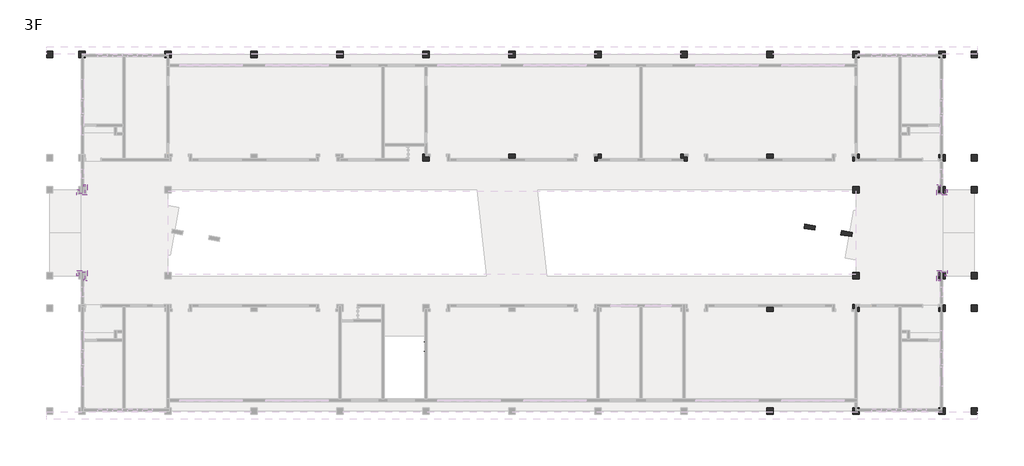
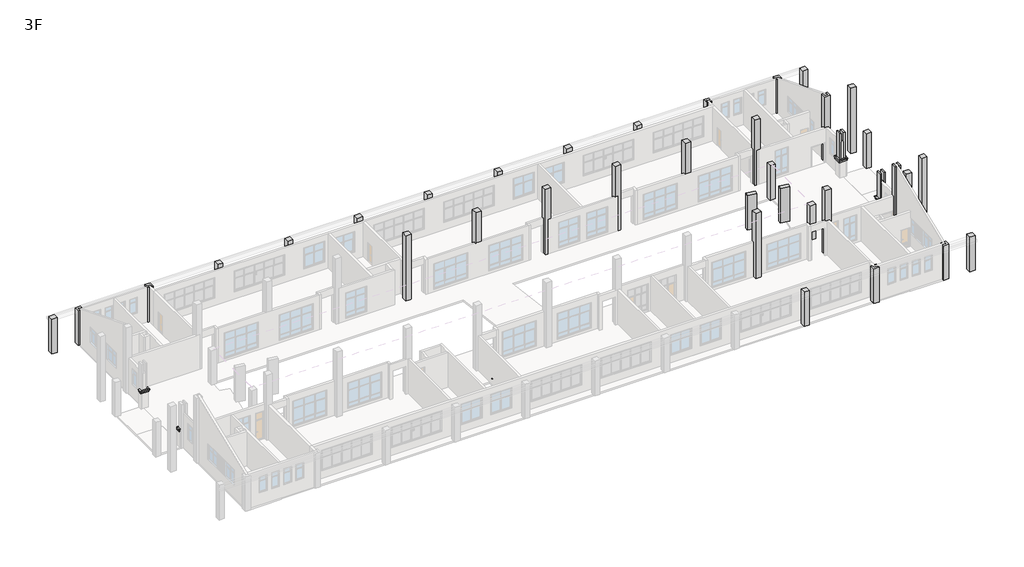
# One storey, part 9 of 9: 37 columns, 6 proxies.
"""IFC4 building model written with IfcOpenShell, lengths in millimetres."""

from ifc_helpers import new_model, si_unit, frame, origin, place, context, project, spatial, polyline, outline, extrude, faceted_brep, transform, mapped, element, save
from components import building_element_proxy_cf76aa7a, column_400_x_1000mm_52ad20a6, column_600_x_600mm_102d08f1, column_600_x_600mm_19dc34fb

model = new_model("IFC4")

# Units and contexts
model_context = context("Model", 3, world=origin())
ifc_project = project(units=[si_unit("LENGTHUNIT", "METRE", prefix="MILLI")], contexts=[model_context])

# Site, building, storey
site = spatial("IfcSite", under=ifc_project)
building = spatial("IfcBuilding", under=site)
storey = spatial("IfcBuildingStorey", under=building, Name="3F", Elevation=8400.0)

# Proxies
placement = place(None, origin())
building_element_proxy_shape = building_element_proxy_cf76aa7a(model_context)
element("IfcBuildingElementProxy", 1, Name="支座 - 金属 - 圆形 : 支座 - 金属 - 圆形", ObjectType="支座 - 金属 - 圆形 : 支座 - 金属 - 圆形", at=placement, inside=storey, context=model_context, shape_type="MappedRepresentation", body=[
    mapped(building_element_proxy_shape, transform((34845.0, 5543.0931494, 8741.3931073), x_axis=(0.0, -1.0, 0.0), y_axis=(1.0, 0.0, 0.0), z_axis=(0.0, 0.0, 1.0))),
])
element("IfcBuildingElementProxy", 2, Name="支座 - 金属 - 圆形 : 支座 - 金属 - 圆形", ObjectType="支座 - 金属 - 圆形 : 支座 - 金属 - 圆形", at=placement, inside=storey, context=model_context, shape_type="MappedRepresentation", body=[
    mapped(building_element_proxy_shape, transform((34845.0, 6437.5203404, 9188.6067028), x_axis=(0.0, -1.0, 0.0), y_axis=(1.0, 0.0, 0.0), z_axis=(0.0, 0.0, 1.0))),
])
element("IfcBuildingElementProxy", 3, Name="QS2", ObjectType="QS2", at=placement, inside=storey, context=model_context, shape_type="Brep", body=[
    faceted_brep([(2550.0, 20633.3045364, 10300.0), (2550.0, 20633.3045364, 10500.0), (2500.0, 20633.3045364, 10500.0), (2500.0, 20633.3045364, 10600.0), (2700.0, 20633.3045364, 10600.0), (2700.0, 20633.3045364, 10550.0), (2600.0, 20633.3045364, 10550.0), (2600.0, 20633.3045364, 10300.0), (2550.0, 20150.0, 10300.0), (2600.0, 20200.0, 10300.0), (2600.0, 20200.0, 10550.0), (2700.0, 20300.0, 10550.0), (2700.0, 20300.0, 10600.0), (2500.0, 20100.0, 10600.0), (2500.0, 20100.0, 10500.0), (2550.0, 20150.0, 10500.0)], [[[0, 1, 2, 3, 4, 5, 6, 7]], [[8, 9, 10, 11, 12, 13, 14, 15]], [[1, 0, 8, 15]], [[2, 1, 15, 14]], [[3, 2, 14, 13]], [[4, 3, 13, 12]], [[5, 4, 12, 11]], [[6, 5, 11, 10]], [[7, 6, 10, 9]], [[0, 7, 9, 8]]]),
    faceted_brep([(2550.0, 20150.0, 10300.0), (2550.0, 20150.0, 10500.0), (2500.0, 20100.0, 10500.0), (2500.0, 20100.0, 10600.0), (2700.0, 20300.0, 10600.0), (2700.0, 20300.0, 10550.0), (2600.0, 20200.0, 10550.0), (2600.0, 20200.0, 10300.0), (3450.0, 20150.0, 10300.0), (3400.0, 20200.0, 10300.0), (3400.0, 20200.0, 10550.0), (3300.0, 20300.0, 10550.0), (3300.0, 20300.0, 10600.0), (3500.0, 20100.0, 10600.0), (3500.0, 20100.0, 10500.0), (3450.0, 20150.0, 10500.0)], [[[0, 1, 2, 3, 4, 5, 6, 7]], [[8, 9, 10, 11, 12, 13, 14, 15]], [[1, 0, 8, 15]], [[2, 1, 15, 14]], [[3, 2, 14, 13]], [[4, 3, 13, 12]], [[5, 4, 12, 11]], [[6, 5, 11, 10]], [[7, 6, 10, 9]], [[0, 7, 9, 8]]]),
    faceted_brep([(3450.0, 20150.0, 10300.0), (3450.0, 20150.0, 10500.0), (3500.0, 20100.0, 10500.0), (3500.0, 20100.0, 10600.0), (3300.0, 20300.0, 10600.0), (3300.0, 20300.0, 10550.0), (3400.0, 20200.0, 10550.0), (3400.0, 20200.0, 10300.0), (3450.0, 21050.0, 10300.0), (3400.0, 21000.0, 10300.0), (3400.0, 21000.0, 10550.0), (3300.0, 20900.0, 10550.0), (3300.0, 20900.0, 10600.0), (3500.0, 21100.0, 10600.0), (3500.0, 21100.0, 10500.0), (3450.0, 21050.0, 10500.0)], [[[0, 1, 2, 3, 4, 5, 6, 7]], [[8, 9, 10, 11, 12, 13, 14, 15]], [[1, 0, 8, 15]], [[2, 1, 15, 14]], [[3, 2, 14, 13]], [[4, 3, 13, 12]], [[5, 4, 12, 11]], [[6, 5, 11, 10]], [[7, 6, 10, 9]], [[0, 7, 9, 8]]]),
    faceted_brep([(3450.0, 21050.0, 10300.0), (3450.0, 21050.0, 10500.0), (3500.0, 21100.0, 10500.0), (3500.0, 21100.0, 10600.0), (3300.0, 20900.0, 10600.0), (3300.0, 20900.0, 10550.0), (3400.0, 21000.0, 10550.0), (3400.0, 21000.0, 10300.0), (3167.0000002, 21050.0, 10300.0), (3167.0000002, 21000.0, 10300.0), (3167.0000002, 21000.0, 10550.0), (3167.0000002, 20900.0, 10550.0), (3167.0000002, 20900.0, 10600.0), (3167.0000002, 21100.0, 10600.0), (3167.0000002, 21100.0, 10500.0), (3167.0000002, 21050.0, 10500.0)], [[[0, 1, 2, 3, 4, 5, 6, 7]], [[8, 9, 10, 11, 12, 13, 14, 15]], [[1, 0, 8, 15]], [[2, 1, 15, 14]], [[3, 2, 14, 13]], [[4, 3, 13, 12]], [[5, 4, 12, 11]], [[6, 5, 11, 10]], [[7, 6, 10, 9]], [[0, 7, 9, 8]]]),
])
element("IfcBuildingElementProxy", 4, Name="QS2", ObjectType="QS2", at=placement, inside=storey, context=model_context, shape_type="Brep", body=[
    faceted_brep([(2550.0, 12566.6954636, 10300.0), (2600.0, 12566.6954636, 10300.0), (2600.0, 12566.6954636, 10550.0), (2700.0, 12566.6954636, 10550.0), (2700.0, 12566.6954636, 10600.0), (2500.0, 12566.6954636, 10600.0), (2500.0, 12566.6954636, 10500.0), (2550.0, 12566.6954636, 10500.0), (2550.0, 13050.0, 10300.0), (2550.0, 13050.0, 10500.0), (2500.0, 13100.0, 10500.0), (2500.0, 13100.0, 10600.0), (2700.0, 12900.0, 10600.0), (2700.0, 12900.0, 10550.0), (2600.0, 13000.0, 10550.0), (2600.0, 13000.0, 10300.0)], [[[0, 1, 2, 3, 4, 5, 6, 7]], [[8, 9, 10, 11, 12, 13, 14, 15]], [[0, 7, 9, 8]], [[7, 6, 10, 9]], [[6, 5, 11, 10]], [[5, 4, 12, 11]], [[4, 3, 13, 12]], [[3, 2, 14, 13]], [[2, 1, 15, 14]], [[1, 0, 8, 15]]]),
    faceted_brep([(2550.0, 13050.0, 10300.0), (2600.0, 13000.0, 10300.0), (2600.0, 13000.0, 10550.0), (2700.0, 12900.0, 10550.0), (2700.0, 12900.0, 10600.0), (2500.0, 13100.0, 10600.0), (2500.0, 13100.0, 10500.0), (2550.0, 13050.0, 10500.0), (3450.0, 13050.0, 10300.0), (3450.0, 13050.0, 10500.0), (3500.0, 13100.0, 10500.0), (3500.0, 13100.0, 10600.0), (3300.0, 12900.0, 10600.0), (3300.0, 12900.0, 10550.0), (3400.0, 13000.0, 10550.0), (3400.0, 13000.0, 10300.0)], [[[0, 1, 2, 3, 4, 5, 6, 7]], [[8, 9, 10, 11, 12, 13, 14, 15]], [[0, 7, 9, 8]], [[7, 6, 10, 9]], [[6, 5, 11, 10]], [[5, 4, 12, 11]], [[4, 3, 13, 12]], [[3, 2, 14, 13]], [[2, 1, 15, 14]], [[1, 0, 8, 15]]]),
    faceted_brep([(3450.0, 13050.0, 10300.0), (3400.0, 13000.0, 10300.0), (3400.0, 13000.0, 10550.0), (3300.0, 12900.0, 10550.0), (3300.0, 12900.0, 10600.0), (3500.0, 13100.0, 10600.0), (3500.0, 13100.0, 10500.0), (3450.0, 13050.0, 10500.0), (3450.0, 12150.0, 10300.0), (3450.0, 12150.0, 10500.0), (3500.0, 12100.0, 10500.0), (3500.0, 12100.0, 10600.0), (3300.0, 12300.0, 10600.0), (3300.0, 12300.0, 10550.0), (3400.0, 12200.0, 10550.0), (3400.0, 12200.0, 10300.0)], [[[0, 1, 2, 3, 4, 5, 6, 7]], [[8, 9, 10, 11, 12, 13, 14, 15]], [[0, 7, 9, 8]], [[7, 6, 10, 9]], [[6, 5, 11, 10]], [[5, 4, 12, 11]], [[4, 3, 13, 12]], [[3, 2, 14, 13]], [[2, 1, 15, 14]], [[1, 0, 8, 15]]]),
    faceted_brep([(3450.0, 12150.0, 10300.0), (3400.0, 12200.0, 10300.0), (3400.0, 12200.0, 10550.0), (3300.0, 12300.0, 10550.0), (3300.0, 12300.0, 10600.0), (3500.0, 12100.0, 10600.0), (3500.0, 12100.0, 10500.0), (3450.0, 12150.0, 10500.0), (3167.0000002, 12150.0, 10300.0), (3167.0000002, 12150.0, 10500.0), (3167.0000002, 12100.0, 10500.0), (3167.0000002, 12100.0, 10600.0), (3167.0000002, 12300.0, 10600.0), (3167.0000002, 12300.0, 10550.0), (3167.0000002, 12200.0, 10550.0), (3167.0000002, 12200.0, 10300.0)], [[[0, 1, 2, 3, 4, 5, 6, 7]], [[8, 9, 10, 11, 12, 13, 14, 15]], [[0, 7, 9, 8]], [[7, 6, 10, 9]], [[6, 5, 11, 10]], [[5, 4, 12, 11]], [[4, 3, 13, 12]], [[3, 2, 14, 13]], [[2, 1, 15, 14]], [[1, 0, 8, 15]]]),
])
element("IfcBuildingElementProxy", 5, Name="QS2", ObjectType="QS2", at=placement, inside=storey, context=model_context, shape_type="Brep", body=[
    faceted_brep([(83450.0, 20633.3045364, 10300.0), (83400.0, 20633.3045364, 10300.0), (83400.0, 20633.3045364, 10550.0), (83300.0, 20633.3045364, 10550.0), (83300.0, 20633.3045364, 10600.0), (83500.0, 20633.3045364, 10600.0), (83500.0, 20633.3045364, 10500.0), (83450.0, 20633.3045364, 10500.0), (83450.0, 20150.0, 10300.0), (83450.0, 20150.0, 10500.0), (83500.0, 20100.0, 10500.0), (83500.0, 20100.0, 10600.0), (83300.0, 20300.0, 10600.0), (83300.0, 20300.0, 10550.0), (83400.0, 20200.0, 10550.0), (83400.0, 20200.0, 10300.0)], [[[0, 1, 2, 3, 4, 5, 6, 7]], [[8, 9, 10, 11, 12, 13, 14, 15]], [[0, 7, 9, 8]], [[7, 6, 10, 9]], [[6, 5, 11, 10]], [[5, 4, 12, 11]], [[4, 3, 13, 12]], [[3, 2, 14, 13]], [[2, 1, 15, 14]], [[1, 0, 8, 15]]]),
    faceted_brep([(83450.0, 20150.0, 10300.0), (83400.0, 20200.0, 10300.0), (83400.0, 20200.0, 10550.0), (83300.0, 20300.0, 10550.0), (83300.0, 20300.0, 10600.0), (83500.0, 20100.0, 10600.0), (83500.0, 20100.0, 10500.0), (83450.0, 20150.0, 10500.0), (82550.0, 20150.0, 10300.0), (82550.0, 20150.0, 10500.0), (82500.0, 20100.0, 10500.0), (82500.0, 20100.0, 10600.0), (82700.0, 20300.0, 10600.0), (82700.0, 20300.0, 10550.0), (82600.0, 20200.0, 10550.0), (82600.0, 20200.0, 10300.0)], [[[0, 1, 2, 3, 4, 5, 6, 7]], [[8, 9, 10, 11, 12, 13, 14, 15]], [[0, 7, 9, 8]], [[7, 6, 10, 9]], [[6, 5, 11, 10]], [[5, 4, 12, 11]], [[4, 3, 13, 12]], [[3, 2, 14, 13]], [[2, 1, 15, 14]], [[1, 0, 8, 15]]]),
    faceted_brep([(82550.0, 20150.0, 10300.0), (82600.0, 20200.0, 10300.0), (82600.0, 20200.0, 10550.0), (82700.0, 20300.0, 10550.0), (82700.0, 20300.0, 10600.0), (82500.0, 20100.0, 10600.0), (82500.0, 20100.0, 10500.0), (82550.0, 20150.0, 10500.0), (82550.0, 21050.0, 10300.0), (82550.0, 21050.0, 10500.0), (82500.0, 21100.0, 10500.0), (82500.0, 21100.0, 10600.0), (82700.0, 20900.0, 10600.0), (82700.0, 20900.0, 10550.0), (82600.0, 21000.0, 10550.0), (82600.0, 21000.0, 10300.0)], [[[0, 1, 2, 3, 4, 5, 6, 7]], [[8, 9, 10, 11, 12, 13, 14, 15]], [[0, 7, 9, 8]], [[7, 6, 10, 9]], [[6, 5, 11, 10]], [[5, 4, 12, 11]], [[4, 3, 13, 12]], [[3, 2, 14, 13]], [[2, 1, 15, 14]], [[1, 0, 8, 15]]]),
    faceted_brep([(82550.0, 21050.0, 10300.0), (82600.0, 21000.0, 10300.0), (82600.0, 21000.0, 10550.0), (82700.0, 20900.0, 10550.0), (82700.0, 20900.0, 10600.0), (82500.0, 21100.0, 10600.0), (82500.0, 21100.0, 10500.0), (82550.0, 21050.0, 10500.0), (82832.9999995, 21050.0, 10300.0), (82832.9999995, 21050.0, 10500.0), (82832.9999995, 21100.0, 10500.0), (82832.9999995, 21100.0, 10600.0), (82832.9999995, 20900.0, 10600.0), (82832.9999995, 20900.0, 10550.0), (82832.9999995, 21000.0, 10550.0), (82832.9999995, 21000.0, 10300.0)], [[[0, 1, 2, 3, 4, 5, 6, 7]], [[8, 9, 10, 11, 12, 13, 14, 15]], [[0, 7, 9, 8]], [[7, 6, 10, 9]], [[6, 5, 11, 10]], [[5, 4, 12, 11]], [[4, 3, 13, 12]], [[3, 2, 14, 13]], [[2, 1, 15, 14]], [[1, 0, 8, 15]]]),
])
element("IfcBuildingElementProxy", 6, Name="QS2", ObjectType="QS2", at=placement, inside=storey, context=model_context, shape_type="Brep", body=[
    faceted_brep([(83450.0, 12566.6954636, 10300.0), (83450.0, 12566.6954636, 10500.0), (83500.0, 12566.6954636, 10500.0), (83500.0, 12566.6954636, 10600.0), (83300.0, 12566.6954636, 10600.0), (83300.0, 12566.6954636, 10550.0), (83400.0, 12566.6954636, 10550.0), (83400.0, 12566.6954636, 10300.0), (83450.0, 13050.0, 10300.0), (83400.0, 13000.0, 10300.0), (83400.0, 13000.0, 10550.0), (83300.0, 12900.0, 10550.0), (83300.0, 12900.0, 10600.0), (83500.0, 13100.0, 10600.0), (83500.0, 13100.0, 10500.0), (83450.0, 13050.0, 10500.0)], [[[0, 1, 2, 3, 4, 5, 6, 7]], [[8, 9, 10, 11, 12, 13, 14, 15]], [[1, 0, 8, 15]], [[2, 1, 15, 14]], [[3, 2, 14, 13]], [[4, 3, 13, 12]], [[5, 4, 12, 11]], [[6, 5, 11, 10]], [[7, 6, 10, 9]], [[0, 7, 9, 8]]]),
    faceted_brep([(83450.0, 13050.0, 10300.0), (83450.0, 13050.0, 10500.0), (83500.0, 13100.0, 10500.0), (83500.0, 13100.0, 10600.0), (83300.0, 12900.0, 10600.0), (83300.0, 12900.0, 10550.0), (83400.0, 13000.0, 10550.0), (83400.0, 13000.0, 10300.0), (82550.0, 13050.0, 10300.0), (82600.0, 13000.0, 10300.0), (82600.0, 13000.0, 10550.0), (82700.0, 12900.0, 10550.0), (82700.0, 12900.0, 10600.0), (82500.0, 13100.0, 10600.0), (82500.0, 13100.0, 10500.0), (82550.0, 13050.0, 10500.0)], [[[0, 1, 2, 3, 4, 5, 6, 7]], [[8, 9, 10, 11, 12, 13, 14, 15]], [[1, 0, 8, 15]], [[2, 1, 15, 14]], [[3, 2, 14, 13]], [[4, 3, 13, 12]], [[5, 4, 12, 11]], [[6, 5, 11, 10]], [[7, 6, 10, 9]], [[0, 7, 9, 8]]]),
    faceted_brep([(82550.0, 13050.0, 10300.0), (82550.0, 13050.0, 10500.0), (82500.0, 13100.0, 10500.0), (82500.0, 13100.0, 10600.0), (82700.0, 12900.0, 10600.0), (82700.0, 12900.0, 10550.0), (82600.0, 13000.0, 10550.0), (82600.0, 13000.0, 10300.0), (82550.0, 12150.0, 10300.0), (82600.0, 12200.0, 10300.0), (82600.0, 12200.0, 10550.0), (82700.0, 12300.0, 10550.0), (82700.0, 12300.0, 10600.0), (82500.0, 12100.0, 10600.0), (82500.0, 12100.0, 10500.0), (82550.0, 12150.0, 10500.0)], [[[0, 1, 2, 3, 4, 5, 6, 7]], [[8, 9, 10, 11, 12, 13, 14, 15]], [[1, 0, 8, 15]], [[2, 1, 15, 14]], [[3, 2, 14, 13]], [[4, 3, 13, 12]], [[5, 4, 12, 11]], [[6, 5, 11, 10]], [[7, 6, 10, 9]], [[0, 7, 9, 8]]]),
    faceted_brep([(82550.0, 12150.0, 10300.0), (82550.0, 12150.0, 10500.0), (82500.0, 12100.0, 10500.0), (82500.0, 12100.0, 10600.0), (82700.0, 12300.0, 10600.0), (82700.0, 12300.0, 10550.0), (82600.0, 12200.0, 10550.0), (82600.0, 12200.0, 10300.0), (82832.9999995, 12150.0, 10300.0), (82832.9999995, 12200.0, 10300.0), (82832.9999995, 12200.0, 10550.0), (82832.9999995, 12300.0, 10550.0), (82832.9999995, 12300.0, 10600.0), (82832.9999995, 12100.0, 10600.0), (82832.9999995, 12100.0, 10500.0), (82832.9999995, 12150.0, 10500.0)], [[[0, 1, 2, 3, 4, 5, 6, 7]], [[8, 9, 10, 11, 12, 13, 14, 15]], [[1, 0, 8, 15]], [[2, 1, 15, 14]], [[3, 2, 14, 13]], [[4, 3, 13, 12]], [[5, 4, 12, 11]], [[6, 5, 11, 10]], [[7, 6, 10, 9]], [[0, 7, 9, 8]]]),
])

# Columns
column_400_x_1000mm_shape = column_400_x_1000mm_52ad20a6(model_context)
element("IfcColumn", 7, ObjectType="矩形柱 : 400 x 1000mm", at=placement, inside=storey, context=model_context, shape_type="MappedRepresentation", body=[
    mapped(column_400_x_1000mm_shape, transform((70696.3343657, 17127.6942221, 0.0), x_axis=(0.9848077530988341, -0.1736481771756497, 0.0), y_axis=(0.1736481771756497, 0.9848077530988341, 0.0), z_axis=(0.0, 0.0, 1.0))),
])
element("IfcColumn", 8, ObjectType="矩形柱 : 400 x 1000mm", at=placement, inside=storey, context=model_context, shape_type="MappedRepresentation", body=[
    mapped(column_400_x_1000mm_shape, transform((74131.0357292, 16521.1261705, 0.0), x_axis=(0.9848077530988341, -0.1736481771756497, 0.0), y_axis=(0.1736481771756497, 0.9848077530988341, 0.0), z_axis=(0.0, 0.0, 1.0))),
])
element("IfcColumn", 9, ObjectType="矩形柱 : 600 x 600mm", at=placement, inside=storey, context=model_context, shape_type="Brep", body=[
    faceted_brep([(11300.0, 33500.0, 12600.0), (10700.0, 33500.0, 12600.0), (10700.0, 33199.8929826, 12600.0), (11133.0, 33199.8929826, 12600.0), (11133.0, 32982.6954639, 12600.0), (11133.0, 32900.0, 12600.0), (11300.0, 32900.0, 12600.0), (11300.0, 33500.0, 8400.0), (10700.0, 33500.0, 8400.0), (10700.0, 33232.6954639, 8400.0), (10700.0, 33232.6954639, 12586.8799436), (11300.0, 32900.0, 8400.0), (11133.0, 33232.6954639, 8400.0), (11133.0, 33232.6954639, 12586.8799436), (11133.0, 32982.6954639, 8400.0), (11133.0, 32900.0, 8400.0)], [[[0, 1, 2, 3, 4, 5, 6]], [[1, 0, 7, 8]], [[1, 8, 9, 10, 2]], [[0, 6, 11, 7]], [[12, 13, 10, 9]], [[13, 12, 14, 4, 3]], [[5, 4, 14, 15]], [[7, 11, 15, 14, 12, 9, 8]], [[11, 6, 5, 15]], [[10, 13, 3, 2]]]),
    faceted_brep([(10700.0, 32900.0, 8400.0), (10700.0, 32982.6954639, 8400.0), (10883.0, 32982.6954639, 8400.0), (10883.0, 32900.0, 8400.0), (10700.0, 32900.0, 12600.0), (10883.0, 32900.0, 12600.0), (10700.0, 32982.6954639, 12600.0), (10883.0, 32982.6954639, 12600.0)], [[[0, 1, 2, 3]], [[4, 0, 3, 5]], [[1, 6, 7, 2]], [[0, 4, 6, 1]], [[7, 5, 3, 2]], [[6, 4, 5, 7]]]),
])
element("IfcColumn", 10, ObjectType="矩形柱 : 600 x 600mm", at=placement, inside=storey, context=model_context, shape_type="SweptSolid", body=[
    extrude(outline(polyline([(300.0, 33500.0), (300.0, 32900.0), (-300.0, 32900.0), (-300.0, 33500.0), (300.0, 33500.0)])), frame((0.0, 0.0, 8400.0), z_axis=(0.0, 0.0, 1.0), x_axis=(1.0, 0.0, 0.0)), (0.0, 0.0, 1.0), 4200.0),
])
element("IfcColumn", 11, ObjectType="矩形柱 : 600 x 600mm", at=placement, inside=storey, context=model_context, shape_type="Brep", body=[
    faceted_brep([(3300.0, 33500.0, 12600.0), (2700.0, 33500.0, 12600.0), (2700.0, 32900.0, 12600.0), (2917.0000002, 32900.0, 12600.0), (2917.0000002, 33199.8929826, 12600.0), (3167.0000002, 33199.8929826, 12600.0), (3300.0, 33199.8929826, 12600.0), (2700.0, 32900.0, 8400.0), (2700.0, 33500.0, 8400.0), (3300.0, 33500.0, 8400.0), (3300.0, 33232.6954639, 8400.0), (3167.0000002, 33232.6954639, 8400.0), (2917.0000002, 33232.6954639, 8400.0), (2917.0000002, 32900.0, 8400.0), (3300.0, 33232.6954639, 12586.8799436), (3167.0000002, 33232.6954639, 12586.8799436), (2917.0000002, 33232.6954639, 12586.8799436)], [[[0, 1, 2, 3, 4, 5, 6]], [[7, 8, 9, 10, 11, 12, 13]], [[1, 0, 9, 8]], [[2, 1, 8, 7]], [[2, 7, 13, 3]], [[9, 0, 6, 14, 10]], [[11, 10, 14, 15]], [[12, 16, 4, 3, 13]], [[16, 12, 11, 15]], [[16, 15, 5, 4]], [[15, 14, 6, 5]]]),
    faceted_brep([(3167.0000002, 32982.6954639, 12600.0), (3300.0, 32982.6954639, 12600.0), (3300.0, 32982.6954639, 8400.0), (3167.0000002, 32982.6954639, 8400.0), (3300.0, 32900.0, 12600.0), (3300.0, 32900.0, 8400.0), (3167.0000002, 32900.0, 12600.0), (3167.0000002, 32900.0, 8400.0)], [[[0, 1, 2, 3]], [[4, 5, 2, 1]], [[6, 0, 3, 7]], [[4, 1, 0, 6]], [[2, 5, 7, 3]], [[5, 4, 6, 7]]]),
])
element("IfcColumn", 12, ObjectType="矩形柱 : 600 x 600mm", at=placement, inside=storey, context=model_context, shape_type="SweptSolid", body=[
    extrude(outline(polyline([(19300.0, 33500.0), (19300.0, 32900.0), (18700.0, 32900.0), (18700.0, 33500.0), (19300.0, 33500.0)])), frame((0.0, 0.0, 8400.0), z_axis=(0.0, 0.0, 1.0), x_axis=(1.0, 0.0, 0.0)), (0.0, 0.0, 1.0), 4200.0),
])
element("IfcColumn", 13, ObjectType="矩形柱 : 600 x 600mm", at=placement, inside=storey, context=model_context, shape_type="SweptSolid", body=[
    extrude(outline(polyline([(86300.0, 33500.0), (86300.0, 32900.0), (85700.0, 32900.0), (85700.0, 33500.0), (86300.0, 33500.0)])), frame((0.0, 0.0, 8400.0), z_axis=(0.0, 0.0, 1.0), x_axis=(1.0, 0.0, 0.0)), (0.0, 0.0, 1.0), 4200.0),
])
element("IfcColumn", 14, ObjectType="矩形柱 : 600 x 600mm", at=placement, inside=storey, context=model_context, shape_type="SweptSolid", body=[
    extrude(outline(polyline([(86300.0, 23900.0), (86300.0, 23300.0), (85700.0, 23300.0), (85700.0, 23900.0), (86300.0, 23900.0)])), frame((0.0, 0.0, 8400.0), z_axis=(0.0, 0.0, 1.0), x_axis=(1.0, 0.0, 0.0)), (0.0, 0.0, 1.0), 7919.691812),
])
element("IfcColumn", 15, ObjectType="矩形柱 : 600 x 600mm", at=placement, inside=storey, context=model_context, shape_type="SweptSolid", body=[
    extrude(outline(polyline([(86300.0, 20900.0), (86300.0, 20300.0), (85700.0, 20300.0), (85700.0, 20900.0), (86300.0, 20900.0)])), frame((0.0, 0.0, 8400.0), z_axis=(0.0, 0.0, 1.0), x_axis=(1.0, 0.0, 0.0)), (0.0, 0.0, 1.0), 4200.0),
])
element("IfcColumn", 16, ObjectType="矩形柱 : 600 x 600mm", at=placement, inside=storey, context=model_context, shape_type="SweptSolid", body=[
    extrude(outline(polyline([(67300.0, -300.0), (66700.0, -300.0), (66700.0, 300.0), (67300.0, 300.0), (67300.0, -300.0)])), frame((0.0, 0.0, 8400.0), z_axis=(0.0, 0.0, 1.0), x_axis=(1.0, 0.0, 0.0)), (0.0, 0.0, 1.0), 4200.0),
])
element("IfcColumn", 17, ObjectType="矩形柱 : 600 x 600mm", at=placement, inside=storey, context=model_context, shape_type="SweptSolid", body=[
    extrude(outline(polyline([(75117.0, 300.0), (75300.0, 300.0), (75300.0, 217.3045358), (75117.0, 217.3045358), (75117.0, 300.0)])), frame((0.0, 0.0, 8400.0), z_axis=(0.0, 0.0, 1.0), x_axis=(1.0, 0.0, 0.0)), (0.0, 0.0, 1.0), 4200.0),
    extrude(outline(polyline([(74700.0, -300.0), (74700.0, 300.0), (74867.0, 300.0), (74867.0, -32.6954642), (75117.0, -32.6954642), (75300.0, -32.6954642), (75300.0, -300.0), (74700.0, -300.0)])), frame((0.0, 0.0, 8400.0), z_axis=(0.0, 0.0, 1.0), x_axis=(1.0, 0.0, 0.0)), (0.0, 0.0, 1.0), 4200.0),
])
element("IfcColumn", 18, ObjectType="矩形柱 : 600 x 600mm", at=placement, inside=storey, context=model_context, shape_type="SweptSolid", body=[
    extrude(outline(polyline([(86300.0, 9300.0), (85700.0, 9300.0), (85700.0, 9900.0), (86300.0, 9900.0), (86300.0, 9300.0)])), frame((0.0, 0.0, 8400.0), z_axis=(0.0, 0.0, 1.0), x_axis=(1.0, 0.0, 0.0)), (0.0, 0.0, 1.0), 7919.691812),
])
element("IfcColumn", 19, ObjectType="矩形柱 : 600 x 600mm", at=placement, inside=storey, context=model_context, shape_type="SweptSolid", body=[
    extrude(outline(polyline([(86300.0, 12300.0), (85700.0, 12300.0), (85700.0, 12900.0), (86300.0, 12900.0), (86300.0, 12300.0)])), frame((0.0, 0.0, 8400.0), z_axis=(0.0, 0.0, 1.0), x_axis=(1.0, 0.0, 0.0)), (0.0, 0.0, 1.0), 4200.0),
])
element("IfcColumn", 20, ObjectType="矩形柱 : 600 x 600mm", at=placement, inside=storey, context=model_context, shape_type="SweptSolid", body=[
    extrude(outline(polyline([(83300.0, 33500.0), (83300.0, 32900.0), (83082.9999995, 32900.0), (83082.9999995, 32982.6954642), (83082.9999995, 33232.6954642), (82700.0, 33232.6954642), (82700.0, 33500.0), (83300.0, 33500.0)])), frame((0.0, 0.0, 8400.0), z_axis=(0.0, 0.0, 1.0), x_axis=(1.0, 0.0, 0.0)), (0.0, 0.0, 1.0), 4200.0),
    extrude(outline(polyline([(82700.0, 32900.0), (82700.0, 32982.6954642), (82832.9999995, 32982.6954642), (82832.9999995, 32900.0), (82700.0, 32900.0)])), frame((0.0, 0.0, 8400.0), z_axis=(0.0, 0.0, 1.0), x_axis=(1.0, 0.0, 0.0)), (0.0, 0.0, 1.0), 4200.0),
])
element("IfcColumn", 21, ObjectType="矩形柱 : 600 x 600mm", at=placement, inside=storey, context=model_context, shape_type="Brep", body=[
    faceted_brep([(82700.0, 23900.0, 16319.691812), (82700.0, 23300.0, 16319.691812), (83300.0, 23300.0, 16319.691812), (83300.0, 23900.0, 16319.691812), (83082.9999995, 23900.0, 16319.691812), (83082.9999995, 23516.2230996, 16319.691812), (82832.9999995, 23516.2230996, 16319.691812), (82832.9999995, 23900.0, 16319.691812), (82700.0, 23900.0, 8400.0), (82832.9999995, 23900.0, 8400.0), (82832.9999995, 23516.2230996, 8400.0), (82700.0, 23516.2230996, 8400.0), (83300.0, 23900.0, 8400.0), (83082.9999995, 23900.0, 8400.0), (82700.0, 23516.2230996, 10800.0), (82700.0, 23516.2230996, 12600.0), (82700.0, 23300.0, 12600.0), (83000.0, 23300.0, 12600.0), (83082.9999995, 23300.0, 12600.0), (83082.9999995, 23300.0, 8400.0), (83300.0, 23300.0, 8400.0), (82832.9999995, 23516.2230996, 12600.0), (83082.9999995, 23516.2230996, 8400.0), (83082.9999995, 23516.2230996, 12600.0)], [[[0, 1, 2, 3, 4, 5, 6, 7]], [[8, 9, 10, 11]], [[3, 12, 13, 4]], [[1, 0, 8, 11, 14, 15, 16]], [[2, 1, 16, 17, 18, 19, 20]], [[3, 2, 20, 12]], [[10, 9, 7, 6, 21]], [[13, 22, 23, 5, 4]], [[21, 15, 14, 11, 10]], [[15, 21, 23, 18, 17, 16]], [[18, 23, 22, 19]], [[8, 0, 7, 9]], [[6, 5, 23, 21]], [[12, 20, 19, 22, 13]]]),
])
element("IfcColumn", 22, ObjectType="矩形柱 : 600 x 600mm", at=placement, inside=storey, context=model_context, shape_type="SweptSolid", body=[
    extrude(outline(polyline([(8400.0, 83300.0), (13679.8801491, 83300.0), (13679.8801491, 83082.9999995), (12600.0, 83082.9999995), (8400.0, 83082.9999995), (8400.0, 83300.0)])), frame((0.0, 20300.0, 0.0), z_axis=(0.0, 1.0, 0.0), x_axis=(0.0, 0.0, 1.0)), (0.0, 0.0, 1.0), 600.0),
    extrude(outline(polyline([(13679.8801491, 82700.0), (8400.0, 82700.0), (8400.0, 82832.9999995), (12600.0, 82832.9999995), (13679.8801491, 82832.9999995), (13679.8801491, 82700.0)])), frame((0.0, 20300.0, 0.0), z_axis=(0.0, 1.0, 0.0), x_axis=(0.0, 0.0, 1.0)), (0.0, 0.0, 1.0), 600.0),
])
element("IfcColumn", 23, ObjectType="矩形柱 : 600 x 600mm", at=placement, inside=storey, context=model_context, shape_type="SweptSolid", body=[
    extrude(outline(polyline([(8400.0, 83300.0), (13679.8801491, 83300.0), (13679.8801491, 83082.9999995), (12600.0, 83082.9999995), (8400.0, 83082.9999995), (8400.0, 83300.0)])), frame((0.0, 12300.0, 0.0), z_axis=(0.0, 1.0, 0.0), x_axis=(0.0, 0.0, 1.0)), (0.0, 0.0, 1.0), 600.0),
    extrude(outline(polyline([(13679.8801491, 82700.0), (8400.0, 82700.0), (8400.0, 82832.9999995), (12600.0, 82832.9999995), (13679.8801491, 82832.9999995), (13679.8801491, 82700.0)])), frame((0.0, 12300.0, 0.0), z_axis=(0.0, 1.0, 0.0), x_axis=(0.0, 0.0, 1.0)), (0.0, 0.0, 1.0), 600.0),
])
element("IfcColumn", 24, ObjectType="矩形柱 : 600 x 600mm", at=placement, inside=storey, context=model_context, shape_type="Brep", body=[
    faceted_brep([(83300.0, 9300.0, 16319.691812), (83300.0, 9900.0, 16319.691812), (83082.9999995, 9900.0, 16319.691812), (83082.9999995, 9300.0, 16319.691812), (83300.0, 9900.0, 8400.0), (83082.9999995, 9900.0, 8400.0), (83300.0, 9300.0, 8400.0), (83082.9999995, 9300.0, 8400.0)], [[[0, 1, 2, 3]], [[1, 4, 5, 2]], [[1, 0, 6, 4]], [[5, 7, 3, 2]], [[4, 6, 7, 5]], [[6, 0, 3, 7]]]),
    faceted_brep([(82832.9999995, 9300.0, 8400.0), (82700.0, 9300.0, 8400.0), (82700.0, 9683.7769004, 8400.0), (82832.9999995, 9683.7769004, 8400.0), (82700.0, 9300.0, 16319.691812), (82700.0, 9900.0, 16319.691812), (82700.0, 9900.0, 12600.0), (82700.0, 9683.7769004, 12600.0), (82700.0, 9683.7769004, 10800.0), (82832.9999995, 9300.0, 16319.691812), (82832.9999995, 9683.7769004, 12600.0), (82832.9999995, 9900.0, 12600.0), (82832.9999995, 9900.0, 16319.691812)], [[[0, 1, 2, 3]], [[4, 5, 6, 7, 8, 2, 1]], [[4, 1, 0, 9]], [[9, 0, 3, 10, 11, 12]], [[7, 10, 3, 2, 8]], [[10, 7, 6, 11]], [[5, 4, 9, 12]], [[5, 12, 11, 6]]]),
])
element("IfcColumn", 25, ObjectType="矩形柱 : 600 x 600mm", at=placement, inside=storey, context=model_context, shape_type="SweptSolid", body=[
    extrude(outline(polyline([(74700.0, 32900.0), (74700.0, 33500.0), (75300.0, 33500.0), (75300.0, 33232.6954642), (75117.0, 33232.6954642), (74867.0, 33232.6954642), (74867.0, 32900.0), (74700.0, 32900.0)])), frame((0.0, 0.0, 8400.0), z_axis=(0.0, 0.0, 1.0), x_axis=(1.0, 0.0, 0.0)), (0.0, 0.0, 1.0), 4200.0),
    extrude(outline(polyline([(75300.0, 32900.0), (75117.0, 32900.0), (75117.0, 32982.6954642), (75300.0, 32982.6954642), (75300.0, 32900.0)])), frame((0.0, 0.0, 8400.0), z_axis=(0.0, 0.0, 1.0), x_axis=(1.0, 0.0, 0.0)), (0.0, 0.0, 1.0), 4200.0),
])
element("IfcColumn", 26, ObjectType="矩形柱 : 600 x 600mm", at=placement, inside=storey, context=model_context, shape_type="SweptSolid", body=[
    extrude(outline(polyline([(82700.0, 217.3045358), (82700.0, 300.0), (82832.9999995, 300.0), (82832.9999995, 217.3045358), (82700.0, 217.3045358)])), frame((0.0, 0.0, 8400.0), z_axis=(0.0, 0.0, 1.0), x_axis=(1.0, 0.0, 0.0)), (0.0, 0.0, 1.0), 4200.0),
    extrude(outline(polyline([(83300.0, 300.0), (83300.0, -300.0), (82700.0, -300.0), (82700.0, -32.6954642), (83082.9999995, -32.6954642), (83082.9999995, 217.3045358), (83082.9999995, 300.0), (83300.0, 300.0)])), frame((0.0, 0.0, 8400.0), z_axis=(0.0, 0.0, 1.0), x_axis=(1.0, 0.0, 0.0)), (0.0, 0.0, 1.0), 4200.0),
])
element("IfcColumn", 27, ObjectType="矩形柱 : 600 x 600mm", at=placement, inside=storey, context=model_context, shape_type="SweptSolid", body=[
    extrude(outline(polyline([(86300.0, 300.0), (86300.0, -300.0), (85700.0, -300.0), (85700.0, 300.0), (86300.0, 300.0)])), frame((0.0, 0.0, 8400.0), z_axis=(0.0, 0.0, 1.0), x_axis=(1.0, 0.0, 0.0)), (0.0, 0.0, 1.0), 4200.0),
])
element("IfcColumn", 28, ObjectType="矩形柱 : 600 x 600mm", at=placement, inside=storey, context=model_context, shape_type="SweptSolid", body=[
    extrude(outline(polyline([(27300.0, 33500.0), (27300.0, 32900.0), (26700.0, 32900.0), (26700.0, 33500.0), (27300.0, 33500.0)])), frame((0.0, 0.0, 8400.0), z_axis=(0.0, 0.0, 1.0), x_axis=(1.0, 0.0, 0.0)), (0.0, 0.0, 1.0), 4200.0),
])
element("IfcColumn", 29, ObjectType="矩形柱 : 600 x 600mm", at=placement, inside=storey, context=model_context, shape_type="SweptSolid", body=[
    extrude(outline(polyline([(35300.0, 33500.0), (35300.0, 32900.0), (34700.0, 32900.0), (34700.0, 33500.0), (35300.0, 33500.0)])), frame((0.0, 0.0, 8400.0), z_axis=(0.0, 0.0, 1.0), x_axis=(1.0, 0.0, 0.0)), (0.0, 0.0, 1.0), 4200.0),
])
element("IfcColumn", 30, ObjectType="矩形柱 : 600 x 600mm", at=placement, inside=storey, context=model_context, shape_type="SweptSolid", body=[
    extrude(outline(polyline([(43300.0, 33500.0), (43300.0, 32900.0), (42700.0, 32900.0), (42700.0, 33500.0), (43300.0, 33500.0)])), frame((0.0, 0.0, 8400.0), z_axis=(0.0, 0.0, 1.0), x_axis=(1.0, 0.0, 0.0)), (0.0, 0.0, 1.0), 4200.0),
])
element("IfcColumn", 31, ObjectType="矩形柱 : 600 x 600mm", at=placement, inside=storey, context=model_context, shape_type="SweptSolid", body=[
    extrude(outline(polyline([(51300.0, 33500.0), (51300.0, 32900.0), (50700.0, 32900.0), (50700.0, 33500.0), (51300.0, 33500.0)])), frame((0.0, 0.0, 8400.0), z_axis=(0.0, 0.0, 1.0), x_axis=(1.0, 0.0, 0.0)), (0.0, 0.0, 1.0), 4200.0),
])
element("IfcColumn", 32, ObjectType="矩形柱 : 600 x 600mm", at=placement, inside=storey, context=model_context, shape_type="SweptSolid", body=[
    extrude(outline(polyline([(59300.0, 33500.0), (59300.0, 32900.0), (58700.0, 32900.0), (58700.0, 33500.0), (59300.0, 33500.0)])), frame((0.0, 0.0, 8400.0), z_axis=(0.0, 0.0, 1.0), x_axis=(1.0, 0.0, 0.0)), (0.0, 0.0, 1.0), 4200.0),
])
element("IfcColumn", 33, ObjectType="矩形柱 : 600 x 600mm", at=placement, inside=storey, context=model_context, shape_type="SweptSolid", body=[
    extrude(outline(polyline([(67300.0, 33500.0), (67300.0, 32900.0), (66700.0, 32900.0), (66700.0, 33500.0), (67300.0, 33500.0)])), frame((0.0, 0.0, 8400.0), z_axis=(0.0, 0.0, 1.0), x_axis=(1.0, 0.0, 0.0)), (0.0, 0.0, 1.0), 4200.0),
])
column_600_x_600mm_shape = column_600_x_600mm_102d08f1(model_context)
element("IfcColumn", 34, ObjectType="矩形柱 : 600 x 600mm", at=placement, inside=storey, context=model_context, shape_type="MappedRepresentation", body=[
    mapped(column_600_x_600mm_shape, transform((75000.0, 20600.0, 0.0), x_axis=(1.0, 0.0, 0.0), y_axis=(0.0, 1.0, 0.0), z_axis=(0.0, 0.0, 1.0))),
])
column_600_x_600mm_2_shape = column_600_x_600mm_19dc34fb(model_context)
element("IfcColumn", 35, ObjectType="矩形柱 : 600 x 600mm", at=placement, inside=storey, context=model_context, shape_type="MappedRepresentation", body=[
    mapped(column_600_x_600mm_2_shape, transform((75000.0, 12600.0, 0.0), x_axis=(1.0, 0.0, 0.0), y_axis=(0.0, 1.0, 0.0), z_axis=(0.0, 0.0, 1.0))),
])
element("IfcColumn", 36, ObjectType="矩形柱 : 634 x 634mm", at=placement, inside=storey, context=model_context, shape_type="Brep", body=[
    faceted_brep([(75317.0, 23917.0, 16312.8922971), (74683.0, 23917.0, 16312.8922971), (74683.0, 23283.0, 16312.8922971), (75317.0, 23283.0, 16312.8922971), (74683.0, 23917.0, 8400.0), (74883.0, 23917.0, 8400.0), (74883.0, 23916.7231011, 8400.0), (74683.0, 23916.7231011, 8400.0), (75317.0, 23917.0, 8400.0), (75117.0, 23917.0, 8400.0), (75117.0, 23917.0, 12600.0), (74883.0, 23917.0, 12600.0), (74683.0, 23916.7231011, 12600.0), (74683.0, 23682.7231011, 12600.0), (74683.0, 23682.7231011, 8400.0), (74683.0, 23283.0, 8400.0), (74883.0, 23283.0, 8400.0), (74883.0, 23283.0, 12600.0), (75117.0, 23283.0, 12600.0), (75317.0, 23283.0, 12600.0), (75317.0, 23516.2230996, 12600.0), (75317.0, 23516.2230996, 8400.0), (74883.0, 23916.7231011, 12600.0), (75117.0, 23516.2230996, 8400.0), (75117.0, 23516.2230996, 12600.0), (74883.0, 23682.7231011, 12600.0), (74883.0, 23682.7231011, 8400.0)], [[[0, 1, 2, 3]], [[4, 5, 6, 7]], [[1, 0, 8, 9, 10, 11, 5, 4]], [[2, 1, 4, 7, 12, 13, 14, 15]], [[3, 2, 15, 16, 17, 18, 19]], [[0, 3, 19, 20, 21, 8]], [[5, 11, 22, 6]], [[10, 9, 23, 24]], [[11, 10, 24, 18, 17, 25, 22]], [[9, 8, 21, 23]], [[20, 24, 23, 21]], [[24, 20, 19, 18]], [[13, 25, 26, 14]], [[22, 12, 7, 6]], [[25, 13, 12, 22]], [[16, 15, 14, 26]], [[17, 16, 26, 25]]]),
])
element("IfcColumn", 37, ObjectType="矩形柱 : 634 x 634mm", at=placement, inside=storey, context=model_context, shape_type="SweptSolid", body=[
    extrude(outline(polyline([(23283.0, 16312.8922971), (23917.0, 16312.8922971), (23917.0, 8400.0), (23516.6954638, 8400.0), (23516.6954638, 12600.0), (23283.0, 12600.0), (23283.0, 16312.8922971)])), frame((66683.0, 0.0, 0.0), z_axis=(1.0, 0.0, 0.0), x_axis=(0.0, 1.0, 0.0)), (0.0, 0.0, 1.0), 634.0),
])
element("IfcColumn", 38, ObjectType="矩形柱 : 634 x 634mm", at=placement, inside=storey, context=model_context, shape_type="Brep", body=[
    faceted_brep([(59317.0, 23917.0, 16312.8922971), (58683.0, 23917.0, 16312.8922971), (58683.0, 23283.0, 16312.8922971), (59317.0, 23283.0, 16312.8922971), (58683.0, 23917.0, 8400.0), (59317.0, 23917.0, 8400.0), (59317.0, 23916.7231012, 8400.0), (59000.0, 23916.7231012, 8400.0), (59000.0, 23682.7231012, 8400.0), (59317.0, 23682.7231012, 8400.0), (59317.0, 23283.0, 8400.0), (59000.0, 23283.0, 8400.0), (59000.0, 23516.6954639, 8400.0), (58683.0, 23516.6954639, 8400.0), (58683.0, 23516.6954639, 12600.0), (58683.0, 23283.0, 12600.0), (59000.0, 23283.0, 12600.0), (59317.0, 23682.7231012, 12600.0), (59317.0, 23916.7231012, 12600.0), (59000.0, 23916.7231012, 12600.0), (59000.0, 23682.7231012, 12600.0), (59000.0, 23516.6954639, 12600.0)], [[[0, 1, 2, 3]], [[4, 5, 6, 7, 8, 9, 10, 11, 12, 13]], [[1, 0, 5, 4]], [[2, 1, 4, 13, 14, 15]], [[3, 2, 15, 16, 11, 10]], [[0, 3, 10, 9, 17, 18, 6, 5]], [[18, 19, 7, 6]], [[20, 17, 9, 8]], [[19, 18, 17, 20]], [[12, 21, 14, 13]], [[14, 21, 16, 15]], [[7, 19, 20, 8]], [[21, 12, 11, 16]]]),
])
element("IfcColumn", 39, ObjectType="矩形柱 : 634 x 634mm", at=placement, inside=storey, context=model_context, shape_type="Brep", body=[
    faceted_brep([(51317.0, 23917.0, 16312.8922971), (50683.0, 23917.0, 16312.8922971), (50683.0, 23283.0, 16312.8922971), (51317.0, 23283.0, 16312.8922971), (50683.0, 23917.0, 8400.0), (51317.0, 23917.0, 8400.0), (51317.0, 23516.6954639, 8400.0), (51000.0, 23516.6954639, 8400.0), (51000.0, 23283.0, 8400.0), (50683.0, 23283.0, 8400.0), (50683.0, 23682.7231007, 8400.0), (51000.0, 23682.7231007, 8400.0), (51000.0, 23916.7231007, 8400.0), (50683.0, 23916.7231007, 8400.0), (50683.0, 23916.7231007, 12600.0), (50683.0, 23682.7231007, 12600.0), (51000.0, 23283.0, 12600.0), (51317.0, 23283.0, 12600.0), (51317.0, 23516.6954639, 12600.0), (51000.0, 23516.6954639, 12600.0), (51000.0, 23916.7231007, 12600.0), (51000.0, 23682.7231007, 12600.0)], [[[0, 1, 2, 3]], [[4, 5, 6, 7, 8, 9, 10, 11, 12, 13]], [[1, 0, 5, 4]], [[2, 1, 4, 13, 14, 15, 10, 9]], [[3, 2, 9, 8, 16, 17]], [[0, 3, 17, 18, 6, 5]], [[18, 19, 7, 6]], [[19, 18, 17, 16]], [[12, 20, 14, 13]], [[21, 11, 10, 15]], [[20, 21, 15, 14]], [[7, 19, 16, 8]], [[20, 12, 11, 21]]]),
])
element("IfcColumn", 40, ObjectType="矩形柱 : 634 x 634mm", at=placement, inside=storey, context=model_context, shape_type="SweptSolid", body=[
    extrude(outline(polyline([(23283.0, 16312.8922971), (23917.0, 16312.8922971), (23917.0, 8400.0), (23516.695464, 8400.0), (23516.695464, 12600.0), (23283.0, 12600.0), (23283.0, 16312.8922971)])), frame((42683.0, 0.0, 0.0), z_axis=(1.0, 0.0, 0.0), x_axis=(0.0, 1.0, 0.0)), (0.0, 0.0, 1.0), 634.0),
])
element("IfcColumn", 41, ObjectType="矩形柱 : 634 x 634mm", at=placement, inside=storey, context=model_context, shape_type="Brep", body=[
    faceted_brep([(35317.0, 23917.0, 16312.8922971), (34683.0, 23917.0, 16312.8922971), (34683.0, 23283.0, 16312.8922971), (35317.0, 23283.0, 16312.8922971), (35117.0, 23917.0, 8400.0), (35317.0, 23917.0, 8400.0), (35317.0, 23916.7231012, 8400.0), (35117.0, 23916.7231012, 8400.0), (35117.0, 23917.0, 12600.0), (34883.0, 23917.0, 12600.0), (34883.0, 23917.0, 8400.0), (34683.0, 23917.0, 8400.0), (34683.0, 23283.0, 8400.0), (35317.0, 23283.0, 8400.0), (35317.0, 23682.7231012, 8400.0), (35317.0, 23682.7231012, 12600.0), (35317.0, 23916.7231012, 12600.0), (34883.0, 23682.7231012, 12600.0), (34883.0, 23682.7231012, 8400.0), (35117.0, 23916.7231012, 12600.0), (35117.0, 23682.7231012, 12600.0), (35117.0, 23682.7231012, 8400.0)], [[[0, 1, 2, 3]], [[4, 5, 6, 7]], [[1, 0, 5, 4, 8, 9, 10, 11]], [[2, 1, 11, 12]], [[3, 2, 12, 13]], [[0, 3, 13, 14, 15, 16, 6, 5]], [[17, 18, 10, 9]], [[8, 4, 7, 19]], [[20, 17, 9, 8, 19]], [[18, 17, 20, 21]], [[16, 19, 7, 6]], [[20, 15, 14, 21]], [[19, 16, 15, 20]], [[13, 12, 11, 10, 18, 21, 14]]]),
])
element("IfcColumn", 42, ObjectType="矩形柱 : 634 x 634mm", at=placement, inside=storey, context=model_context, shape_type="Brep", body=[
    faceted_brep([(74683.0, 9283.0, 16312.8922971), (75317.0, 9283.0, 16312.8922971), (75317.0, 9917.0, 16312.8922971), (74683.0, 9917.0, 16312.8922971), (74683.0, 9917.0, 8400.0), (74883.0, 9917.0, 8400.0), (74883.0, 9517.2768989, 8400.0), (74683.0, 9517.2768989, 8400.0), (74683.0, 9283.0, 8400.0), (74883.0, 9283.0, 8400.0), (74883.0, 9283.0, 12600.0), (75117.0, 9283.0, 12600.0), (75117.0, 9283.0, 8400.0), (75317.0, 9283.0, 8400.0), (74683.0, 9517.2768989, 12600.0), (74683.0, 9283.2768989, 12600.0), (74683.0, 9283.2768989, 8400.0), (75317.0, 9917.0, 12600.0), (75117.0, 9917.0, 12600.0), (74883.0, 9917.0, 12600.0), (75317.0, 9683.7769004, 8400.0), (75317.0, 9683.7769004, 12600.0), (75117.0, 9683.7769004, 12600.0), (75117.0, 9683.7769004, 8400.0), (74883.0, 9517.2768989, 12600.0), (74883.0, 9283.2768989, 12600.0), (74883.0, 9283.2768989, 8400.0)], [[[0, 1, 2, 3]], [[4, 5, 6, 7]], [[1, 0, 8, 9, 10, 11, 12, 13]], [[0, 3, 4, 7, 14, 15, 16, 8]], [[3, 2, 17, 18, 19, 5, 4]], [[2, 1, 13, 20, 21, 17]], [[12, 11, 22, 23]], [[5, 19, 24, 6]], [[11, 10, 25, 24, 19, 18, 22]], [[13, 12, 23, 20]], [[22, 21, 20, 23]], [[21, 22, 18, 17]], [[15, 25, 26, 16]], [[24, 14, 7, 6]], [[25, 15, 14, 24]], [[9, 8, 16, 26]], [[10, 9, 26, 25]]]),
])
element("IfcColumn", 43, ObjectType="矩形柱 : 634 x 634mm", at=placement, inside=storey, context=model_context, shape_type="SweptSolid", body=[
    extrude(outline(polyline([(9283.0, 16312.8922971), (9917.0, 16312.8922971), (9917.0, 12600.0), (9683.3045361, 12600.0), (9683.3045361, 8400.0), (9283.0, 8400.0), (9283.0, 16312.8922971)])), frame((66683.0, 0.0, 0.0), z_axis=(1.0, 0.0, 0.0), x_axis=(0.0, 1.0, 0.0)), (0.0, 0.0, 1.0), 634.0),
])

save(model, "model.ifc")
